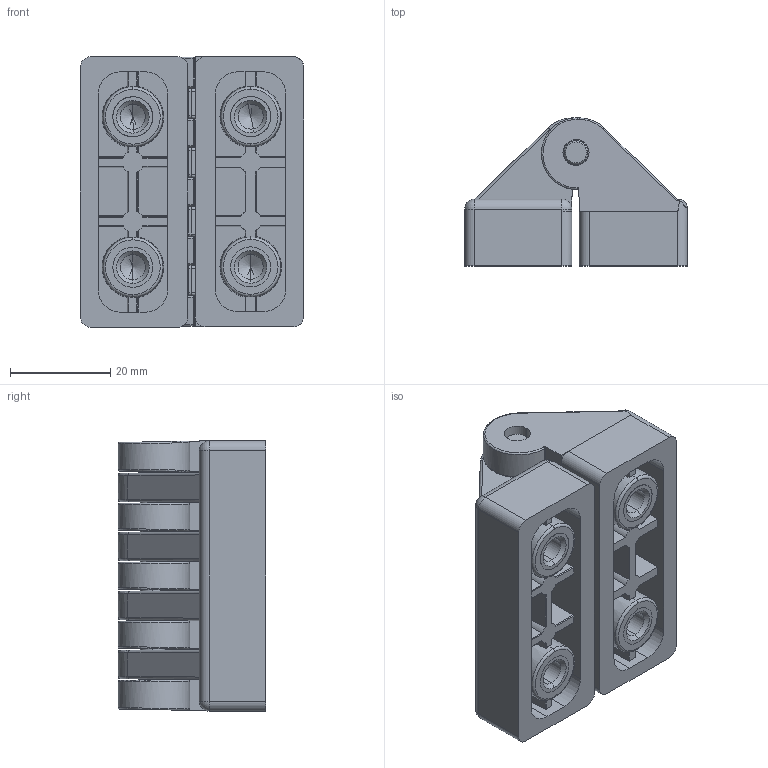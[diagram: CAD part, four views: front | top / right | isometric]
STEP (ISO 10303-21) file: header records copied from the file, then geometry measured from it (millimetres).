
FILE_DESCRIPTION (( 'STEP AP214' ), '1' );
FILE_NAME ('7810111.STEP', '2024-01-25T11:03:18', ( '' ), ( '' ), 'SwSTEP 2.0', 'SolidWorks 2022', '' );
FILE_SCHEMA (( 'AUTOMOTIVE_DESIGN' ));
Length unit declared in the file: millimetre
Products named in the file (5): 7810111.1; 7810111.3; 7810111.4; 7810111; 7810111.2
Assembly tree (7 placements, depth 2):
  7810111
    7810111.2
    7810111.1
    7810111.3
    7810111.4  x4
Bounding box: 44.5 x 29.5 x 53.95 mm (x, y, z)
Volume: 35996.1 mm3; surface area: 24606.7 mm2
Topology: 7 solids, 7 shells, 597 faces, 1485 edges, 914 vertices
Faces by surface type: plane 260, cylinder 239, cone 44, bspline 40, torus 8, sphere 6
Entity records: 18187 total; most frequent: CARTESIAN_POINT 5591, ORIENTED_EDGE 2738, DIRECTION 2481, EDGE_CURVE 1369, AXIS2_PLACEMENT_3D 899, VERTEX_POINT 851, VECTOR 683, LINE 683
